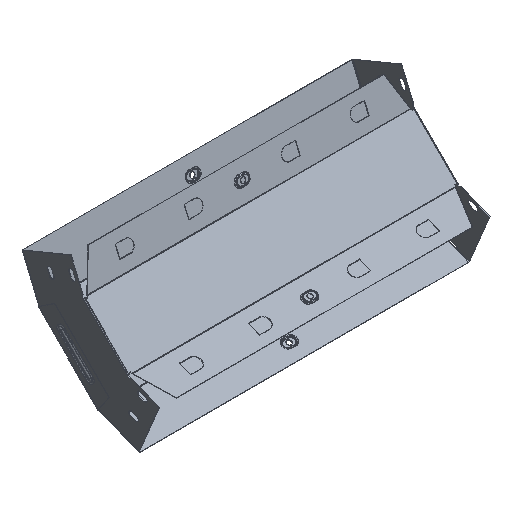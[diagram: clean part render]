
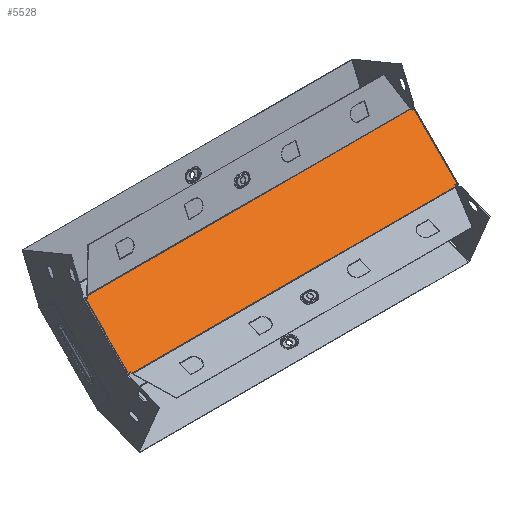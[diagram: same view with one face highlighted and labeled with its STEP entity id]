
A CAD part, isometric view. The second image highlights one B-rep face of the part: STEP entity #5528.
In plain terms, the highlighted planar face has unit normal (0, -0.707, 0.707).
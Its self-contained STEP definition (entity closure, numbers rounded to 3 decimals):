
#52 = PLANE ( 'NONE',  #3555 ) ;
#176 = ORIENTED_EDGE ( 'NONE', *, *, #7585, .T. ) ;
#204 = CARTESIAN_POINT ( 'NONE',  ( 250.299, 2.258, -69.859 ) ) ;
#217 = VERTEX_POINT ( 'NONE', #8380 ) ;
#357 = DIRECTION ( 'NONE',  ( -1., 0., 0. ) ) ;
#433 = VECTOR ( 'NONE', #9685, 1000. ) ;
#656 = LINE ( 'NONE', #3244, #3422 ) ;
#695 = CARTESIAN_POINT ( 'NONE',  ( 248.2, 69.245, -2.873 ) ) ;
#735 = EDGE_CURVE ( 'NONE', #5773, #7877, #11641, .T. ) ;
#820 = EDGE_CURVE ( 'NONE', #8220, #9799, #6291, .T. ) ;
#922 = CARTESIAN_POINT ( 'NONE',  ( 245.217, 3.747, -68.371 ) ) ;
#1092 = DIRECTION ( 'NONE',  ( 0., 0.707, -0.707 ) ) ;
#1190 = DIRECTION ( 'NONE',  ( 0.924, -0.271, -0.271 ) ) ;
#1206 = CARTESIAN_POINT ( 'NONE',  ( 248.2, 70., -2.118 ) ) ;
#1690 = LINE ( 'NONE', #12339, #10611 ) ;
#1727 = EDGE_CURVE ( 'NONE', #4527, #8220, #5501, .T. ) ;
#1901 = CARTESIAN_POINT ( 'NONE',  ( 223.5, -33.327, -105.445 ) ) ;
#1907 = CARTESIAN_POINT ( 'NONE',  ( -250.299, 69.859, -2.258 ) ) ;
#1943 = CARTESIAN_POINT ( 'NONE',  ( -248.2, 70., -2.118 ) ) ;
#1986 = ORIENTED_EDGE ( 'NONE', *, *, #735, .T. ) ;
#1997 = VECTOR ( 'NONE', #5590, 1000. ) ;
#2124 = CARTESIAN_POINT ( 'NONE',  ( -245.217, 68.371, -3.747 ) ) ;
#2140 = VERTEX_POINT ( 'NONE', #695 ) ;
#2392 = VERTEX_POINT ( 'NONE', #9446 ) ;
#2417 = DIRECTION ( 'NONE',  ( -0.383, -0.653, -0.653 ) ) ;
#2522 = VECTOR ( 'NONE', #9589, 1000. ) ;
#2560 = VECTOR ( 'NONE', #6357, 1000. ) ;
#2653 = LINE ( 'NONE', #204, #4964 ) ;
#2988 = LINE ( 'NONE', #5644, #2522 ) ;
#3145 = CARTESIAN_POINT ( 'NONE',  ( -245.217, 3.747, -68.371 ) ) ;
#3183 = ORIENTED_EDGE ( 'NONE', *, *, #1727, .T. ) ;
#3244 = CARTESIAN_POINT ( 'NONE',  ( 248.2, 69.859, -2.258 ) ) ;
#3271 = ORIENTED_EDGE ( 'NONE', *, *, #11279, .F. ) ;
#3402 = ORIENTED_EDGE ( 'NONE', *, *, #12350, .T. ) ;
#3422 = VECTOR ( 'NONE', #357, 1000. ) ;
#3449 = EDGE_CURVE ( 'NONE', #2140, #5040, #2988, .T. ) ;
#3555 = AXIS2_PLACEMENT_3D ( 'NONE', #1206, #1092, #10040 ) ;
#3709 = ORIENTED_EDGE ( 'NONE', *, *, #11261, .T. ) ;
#3790 = ORIENTED_EDGE ( 'NONE', *, *, #4641, .T. ) ;
#4459 = VECTOR ( 'NONE', #11139, 1000. ) ;
#4527 = VERTEX_POINT ( 'NONE', #2124 ) ;
#4593 = DIRECTION ( 'NONE',  ( 0.924, 0.271, 0.271 ) ) ;
#4631 = CARTESIAN_POINT ( 'NONE',  ( -248.2, 69.245, -2.873 ) ) ;
#4641 = EDGE_CURVE ( 'NONE', #11803, #9282, #656, .T. ) ;
#4680 = EDGE_CURVE ( 'NONE', #7877, #2392, #2653, .T. ) ;
#4964 = VECTOR ( 'NONE', #1190, 1000. ) ;
#5040 = VERTEX_POINT ( 'NONE', #8819 ) ;
#5481 = VERTEX_POINT ( 'NONE', #11740 ) ;
#5501 = LINE ( 'NONE', #1907, #5665 ) ;
#5528 = ADVANCED_FACE ( 'NONE', ( #10305 ), #52, .F. ) ;
#5590 = DIRECTION ( 'NONE',  ( 0., -0.707, -0.707 ) ) ;
#5644 = CARTESIAN_POINT ( 'NONE',  ( 250.299, 69.859, -2.258 ) ) ;
#5665 = VECTOR ( 'NONE', #10862, 1000. ) ;
#5675 = ORIENTED_EDGE ( 'NONE', *, *, #820, .T. ) ;
#5773 = VERTEX_POINT ( 'NONE', #12405 ) ;
#5947 = LINE ( 'NONE', #10196, #9629 ) ;
#6291 = LINE ( 'NONE', #1943, #7991 ) ;
#6357 = DIRECTION ( 'NONE',  ( -1., 0., 0. ) ) ;
#6578 = LINE ( 'NONE', #8341, #2560 ) ;
#6806 = CARTESIAN_POINT ( 'NONE',  ( 244.345, 69.859, -2.258 ) ) ;
#7073 = VECTOR ( 'NONE', #8110, 1000. ) ;
#7135 = CARTESIAN_POINT ( 'NONE',  ( 223.5, 105.445, 33.327 ) ) ;
#7547 = CARTESIAN_POINT ( 'NONE',  ( 248.2, 70., -2.118 ) ) ;
#7585 = EDGE_CURVE ( 'NONE', #9282, #4527, #5947, .T. ) ;
#7877 = VERTEX_POINT ( 'NONE', #922 ) ;
#7991 = VECTOR ( 'NONE', #10981, 1000. ) ;
#8110 = DIRECTION ( 'NONE',  ( -0.383, 0.653, 0.653 ) ) ;
#8220 = VERTEX_POINT ( 'NONE', #4631 ) ;
#8341 = CARTESIAN_POINT ( 'NONE',  ( 248.2, 2.258, -69.859 ) ) ;
#8380 = CARTESIAN_POINT ( 'NONE',  ( -245.217, 3.747, -68.371 ) ) ;
#8542 = EDGE_CURVE ( 'NONE', #5773, #5481, #6578, .T. ) ;
#8730 = CARTESIAN_POINT ( 'NONE',  ( -244.345, 69.859, -2.258 ) ) ;
#8819 = CARTESIAN_POINT ( 'NONE',  ( 245.217, 68.371, -3.747 ) ) ;
#8975 = ORIENTED_EDGE ( 'NONE', *, *, #4680, .T. ) ;
#9221 = LINE ( 'NONE', #7547, #1997 ) ;
#9282 = VERTEX_POINT ( 'NONE', #8730 ) ;
#9446 = CARTESIAN_POINT ( 'NONE',  ( 248.2, 2.873, -69.245 ) ) ;
#9589 = DIRECTION ( 'NONE',  ( -0.924, -0.271, -0.271 ) ) ;
#9629 = VECTOR ( 'NONE', #2417, 1000. ) ;
#9685 = DIRECTION ( 'NONE',  ( 0.383, 0.653, 0.653 ) ) ;
#9799 = VERTEX_POINT ( 'NONE', #10731 ) ;
#10040 = DIRECTION ( 'NONE',  ( 0., 0.707, 0.707 ) ) ;
#10196 = CARTESIAN_POINT ( 'NONE',  ( -245.217, 68.371, -3.747 ) ) ;
#10305 = FACE_OUTER_BOUND ( 'NONE', #12103, .T. ) ;
#10611 = VECTOR ( 'NONE', #4593, 1000. ) ;
#10709 = ORIENTED_EDGE ( 'NONE', *, *, #11034, .T. ) ;
#10731 = CARTESIAN_POINT ( 'NONE',  ( -248.2, 2.873, -69.245 ) ) ;
#10862 = DIRECTION ( 'NONE',  ( -0.924, 0.271, 0.271 ) ) ;
#10965 = ORIENTED_EDGE ( 'NONE', *, *, #8542, .F. ) ;
#10981 = DIRECTION ( 'NONE',  ( 0., -0.707, -0.707 ) ) ;
#11034 = EDGE_CURVE ( 'NONE', #217, #5481, #11538, .T. ) ;
#11139 = DIRECTION ( 'NONE',  ( 0.383, -0.653, -0.653 ) ) ;
#11246 = ORIENTED_EDGE ( 'NONE', *, *, #3449, .T. ) ;
#11261 = EDGE_CURVE ( 'NONE', #9799, #217, #1690, .T. ) ;
#11279 = EDGE_CURVE ( 'NONE', #2140, #2392, #9221, .T. ) ;
#11348 = LINE ( 'NONE', #7135, #7073 ) ;
#11538 = LINE ( 'NONE', #3145, #4459 ) ;
#11641 = LINE ( 'NONE', #1901, #433 ) ;
#11740 = CARTESIAN_POINT ( 'NONE',  ( -244.345, 2.258, -69.859 ) ) ;
#11803 = VERTEX_POINT ( 'NONE', #6806 ) ;
#12103 = EDGE_LOOP ( 'NONE', ( #1986, #8975, #3271, #11246, #3402, #3790, #176, #3183, #5675, #3709, #10709, #10965 ) ) ;
#12339 = CARTESIAN_POINT ( 'NONE',  ( -250.299, 2.258, -69.859 ) ) ;
#12350 = EDGE_CURVE ( 'NONE', #5040, #11803, #11348, .T. ) ;
#12405 = CARTESIAN_POINT ( 'NONE',  ( 244.345, 2.258, -69.859 ) ) ;
